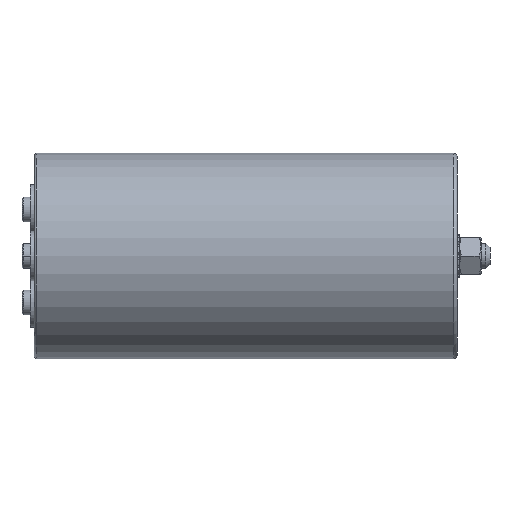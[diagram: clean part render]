
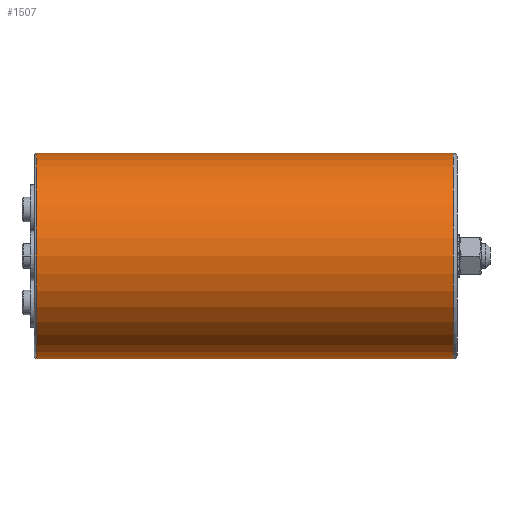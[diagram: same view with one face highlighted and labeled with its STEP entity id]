
A CAD part, left-side view. The second image highlights one B-rep face of the part: STEP entity #1507.
In plain terms, the highlighted cylindrical face has radius 50 mm (diameter 100 mm), a partial arc.
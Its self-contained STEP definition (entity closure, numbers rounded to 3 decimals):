
#168 = CARTESIAN_POINT ( 'NONE',  ( 0., 205., 0. ) ) ;
#446 = CARTESIAN_POINT ( 'NONE',  ( 0., 2., 0. ) ) ;
#458 = LINE ( 'NONE', #3358, #3375 ) ;
#577 = DIRECTION ( 'NONE',  ( 0., -1., 0. ) ) ;
#757 = CYLINDRICAL_SURFACE ( 'NONE', #2941, 50. ) ;
#1075 = CARTESIAN_POINT ( 'NONE',  ( 0., 0., 0. ) ) ;
#1139 = EDGE_CURVE ( 'NONE', #1423, #4148, #2395, .T. ) ;
#1170 = ORIENTED_EDGE ( 'NONE', *, *, #2274, .T. ) ;
#1219 = DIRECTION ( 'NONE',  ( 0., 1., 0. ) ) ;
#1252 = VECTOR ( 'NONE', #577, 1000. ) ;
#1318 = LINE ( 'NONE', #3964, #1252 ) ;
#1407 = CARTESIAN_POINT ( 'NONE',  ( 0., 2., -50. ) ) ;
#1423 = VERTEX_POINT ( 'NONE', #1407 ) ;
#1507 = ADVANCED_FACE ( 'NONE', ( #2926 ), #757, .T. ) ;
#1622 = EDGE_CURVE ( 'NONE', #1779, #4148, #458, .T. ) ;
#1779 = VERTEX_POINT ( 'NONE', #4735 ) ;
#1870 = CARTESIAN_POINT ( 'NONE',  ( 0., 205., -50. ) ) ;
#1909 = ORIENTED_EDGE ( 'NONE', *, *, #2429, .T. ) ;
#1938 = CIRCLE ( 'NONE', #2093, 50. ) ;
#2093 = AXIS2_PLACEMENT_3D ( 'NONE', #168, #2337, #3793 ) ;
#2232 = DIRECTION ( 'NONE',  ( 0., -1., 0. ) ) ;
#2273 = DIRECTION ( 'NONE',  ( 0., -1., 0. ) ) ;
#2274 = EDGE_CURVE ( 'NONE', #1779, #3443, #1938, .T. ) ;
#2337 = DIRECTION ( 'NONE',  ( 0., -1., 0. ) ) ;
#2395 = CIRCLE ( 'NONE', #4301, 50. ) ;
#2429 = EDGE_CURVE ( 'NONE', #3443, #1423, #1318, .T. ) ;
#2644 = DIRECTION ( 'NONE',  ( 0., 0., -1. ) ) ;
#2926 = FACE_OUTER_BOUND ( 'NONE', #4142, .T. ) ;
#2941 = AXIS2_PLACEMENT_3D ( 'NONE', #1075, #2232, #3683 ) ;
#3159 = CARTESIAN_POINT ( 'NONE',  ( 0., 2., 50. ) ) ;
#3358 = CARTESIAN_POINT ( 'NONE',  ( 0., 0., 50. ) ) ;
#3375 = VECTOR ( 'NONE', #2273, 1000. ) ;
#3443 = VERTEX_POINT ( 'NONE', #1870 ) ;
#3683 = DIRECTION ( 'NONE',  ( 0., 0., -1. ) ) ;
#3736 = ORIENTED_EDGE ( 'NONE', *, *, #1622, .F. ) ;
#3793 = DIRECTION ( 'NONE',  ( 0., 0., 1. ) ) ;
#3964 = CARTESIAN_POINT ( 'NONE',  ( 0., 0., -50. ) ) ;
#4142 = EDGE_LOOP ( 'NONE', ( #3736, #1170, #1909, #4436 ) ) ;
#4148 = VERTEX_POINT ( 'NONE', #3159 ) ;
#4301 = AXIS2_PLACEMENT_3D ( 'NONE', #446, #1219, #2644 ) ;
#4436 = ORIENTED_EDGE ( 'NONE', *, *, #1139, .T. ) ;
#4735 = CARTESIAN_POINT ( 'NONE',  ( 0., 205., 50. ) ) ;
